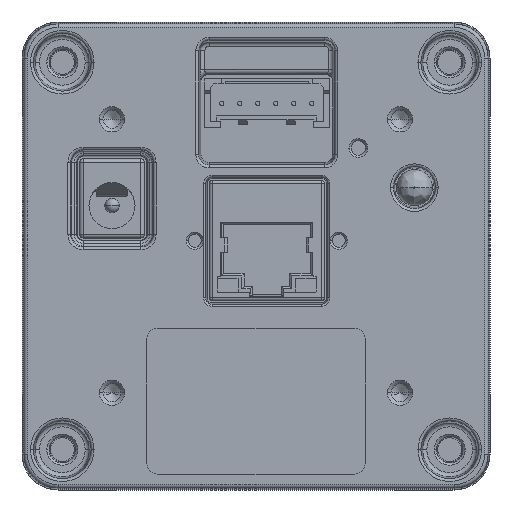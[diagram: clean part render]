
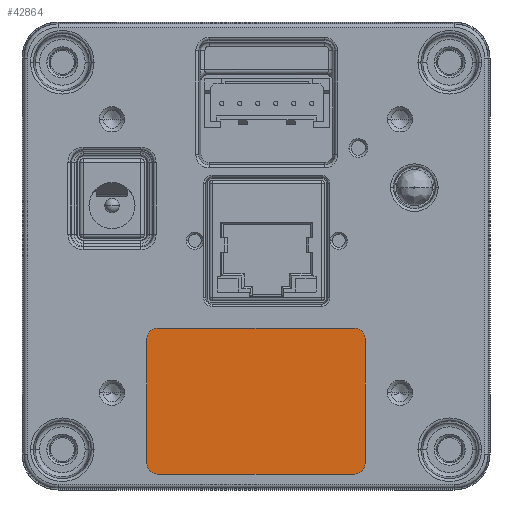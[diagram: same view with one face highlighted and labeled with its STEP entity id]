
A CAD part, front view. The second image highlights one B-rep face of the part: STEP entity #42864.
In plain terms, the highlighted planar face has unit normal (0, -1, 0).
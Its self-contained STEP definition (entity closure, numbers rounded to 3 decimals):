
#28159=CARTESIAN_POINT('',(13.65,-8.,-11.5));
#28160=DIRECTION('',(0.,-1.,0.));
#28161=DIRECTION('',(1.,0.,0.));
#28162=AXIS2_PLACEMENT_3D('',#28159,#28160,#28161);
#28167=DIRECTION('',(0.,0.,1.));
#28168=VECTOR('',#28167,17.3);
#28169=CARTESIAN_POINT('',(15.15,-8.,-28.8));
#28170=LINE('',#28169,#28168);
#28174=CARTESIAN_POINT('',(13.65,-8.,-28.8));
#28175=DIRECTION('',(0.,-1.,0.));
#28176=DIRECTION('',(0.,0.,-1.));
#28177=AXIS2_PLACEMENT_3D('',#28174,#28175,#28176);
#28182=DIRECTION('',(1.,0.,0.));
#28183=VECTOR('',#28182,27.3);
#28184=CARTESIAN_POINT('',(-13.65,-8.,-30.3));
#28185=LINE('',#28184,#28183);
#28189=CARTESIAN_POINT('',(-13.65,-8.,-28.8));
#28190=DIRECTION('',(0.,-1.,0.));
#28191=DIRECTION('',(-1.,0.,0.));
#28192=AXIS2_PLACEMENT_3D('',#28189,#28190,#28191);
#28197=DIRECTION('',(0.,0.,-1.));
#28198=VECTOR('',#28197,17.3);
#28199=CARTESIAN_POINT('',(-15.15,-8.,-11.5));
#28200=LINE('',#28199,#28198);
#28204=CARTESIAN_POINT('',(-13.65,-8.,-11.5));
#28205=DIRECTION('',(0.,-1.,0.));
#28206=DIRECTION('',(0.,0.,1.));
#28207=AXIS2_PLACEMENT_3D('',#28204,#28205,#28206);
#28212=DIRECTION('',(-1.,0.,0.));
#28213=VECTOR('',#28212,27.3);
#28214=CARTESIAN_POINT('',(13.65,-8.,-10.));
#28215=LINE('',#28214,#28213);
#33746=CARTESIAN_POINT('',(15.15,-8.,-11.5));
#33747=CARTESIAN_POINT('',(13.65,-8.,-10.));
#33748=VERTEX_POINT('',#33746);
#33749=VERTEX_POINT('',#33747);
#33754=CARTESIAN_POINT('',(-13.65,-8.,-10.));
#33755=CARTESIAN_POINT('',(-15.15,-8.,-11.5));
#33756=VERTEX_POINT('',#33754);
#33757=VERTEX_POINT('',#33755);
#33762=CARTESIAN_POINT('',(-15.15,-8.,-28.8));
#33763=CARTESIAN_POINT('',(-13.65,-8.,-30.3));
#33764=VERTEX_POINT('',#33762);
#33765=VERTEX_POINT('',#33763);
#33770=CARTESIAN_POINT('',(13.65,-8.,-30.3));
#33771=CARTESIAN_POINT('',(15.15,-8.,-28.8));
#33772=VERTEX_POINT('',#33770);
#33773=VERTEX_POINT('',#33771);
#42843=CARTESIAN_POINT('',(0.,-8.,0.));
#42844=DIRECTION('',(0.,-1.,0.));
#42845=DIRECTION('',(-1.,0.,0.));
#42846=AXIS2_PLACEMENT_3D('',#42843,#42844,#42845);
#42847=PLANE('',#42846);
#42848=ORIENTED_EDGE('',*,*,#42834,.F.);
#42850=ORIENTED_EDGE('',*,*,#42849,.F.);
#42852=ORIENTED_EDGE('',*,*,#42851,.F.);
#42854=ORIENTED_EDGE('',*,*,#42853,.F.);
#42856=ORIENTED_EDGE('',*,*,#42855,.F.);
#42858=ORIENTED_EDGE('',*,*,#42857,.F.);
#42860=ORIENTED_EDGE('',*,*,#42859,.F.);
#42861=ORIENTED_EDGE('',*,*,#42821,.F.);
#42862=EDGE_LOOP('',(#42848,#42850,#42852,#42854,#42856,#42858,#42860,#42861));
#42863=FACE_OUTER_BOUND('',#42862,.F.);
#42864=ADVANCED_FACE('',(#42863),#42847,.T.);
#28163=CIRCLE('',#28162,1.5);
#28178=CIRCLE('',#28177,1.5);
#28193=CIRCLE('',#28192,1.5);
#28208=CIRCLE('',#28207,1.5);
#42821=EDGE_CURVE('',#33749,#33756,#28215,.T.);
#42834=EDGE_CURVE('',#33748,#33749,#28163,.T.);
#42849=EDGE_CURVE('',#33773,#33748,#28170,.T.);
#42851=EDGE_CURVE('',#33772,#33773,#28178,.T.);
#42853=EDGE_CURVE('',#33765,#33772,#28185,.T.);
#42855=EDGE_CURVE('',#33764,#33765,#28193,.T.);
#42857=EDGE_CURVE('',#33757,#33764,#28200,.T.);
#42859=EDGE_CURVE('',#33756,#33757,#28208,.T.);
